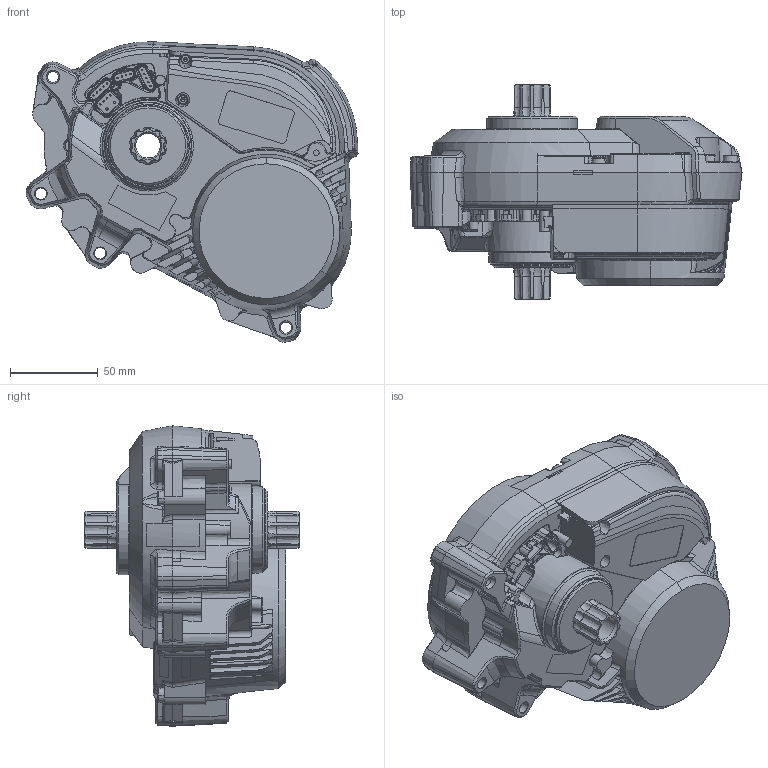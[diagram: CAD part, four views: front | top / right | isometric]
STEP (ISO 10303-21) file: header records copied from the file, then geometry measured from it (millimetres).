
FILE_DESCRIPTION (( 'STEP AP214' ), '1' );
FILE_NAME ('PERS_volume_without_plastic_cover.STEP', '2025-01-31T09:29:46', ( '' ), ( '' ), 'SwSTEP 2.0', 'SolidWorks 2024', '' );
FILE_SCHEMA (( 'AUTOMOTIVE_DESIGN' ));
Length unit declared in the file: millimetre
Products named in the file (1): PERS_volume_without_plastic_cover
Bounding box: 188.9 x 122 x 170.91 mm (x, y, z)
Volume: 1459744.3 mm3; surface area: 133515.7 mm2
Topology: 2 solids, 16 shells, 2624 faces, 6910 edges, 4323 vertices
Faces by surface type: plane 847, cylinder 758, bspline 557, cone 250, torus 193, sphere 19
Full cylindrical faces by diameter (mm): 3.2 x2, 5.3 x7, 5.4 x1, 6.3 x2, 6.6 x2, 14 x1, 51.469 x1
Entity records: 151837 total; most frequent: CARTESIAN_POINT 64584, ORIENTED_EDGE 13640, DIRECTION 10282, EDGE_CURVE 6820, VERTEX_POINT 4310, AXIS2_PLACEMENT_3D 3910, EDGE_LOOP 2744, FACE_OUTER_BOUND 2643
